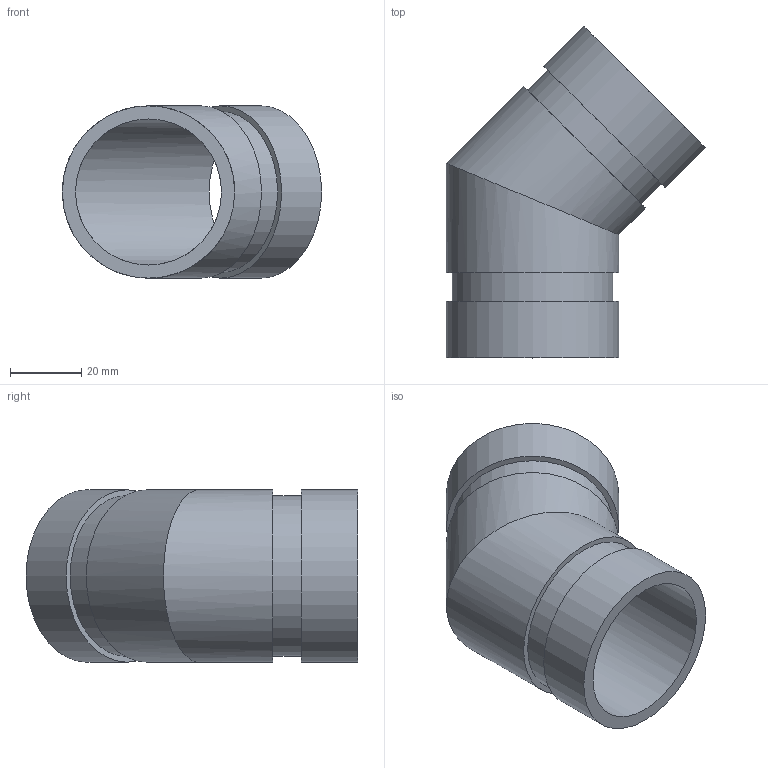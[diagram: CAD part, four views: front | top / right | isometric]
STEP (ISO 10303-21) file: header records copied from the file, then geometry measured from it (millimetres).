
FILE_DESCRIPTION(/* description */ ('VIC 45 DEG FABRICATED ELBOW No 11 SWS (OGS)','CAx-IF Rec.Pracs.---Representation and Presentation of Product Manufacturing Information (PMI)---4.0---2014-10-13'),/* implementation_level */ '2;1');
FILE_NAME(/* name */ 'C:\Users\kkamble\AppData\Roaming\Autodesk\ApplicationPlugins\Back Up\Victaulic_IPS_Elbow 45 Deg_No 11 SWS (OGS)\Victaulic_IPS_Elbow 45 Deg_No 11 SWS (OGS)_1.5 (40).stp',/* time_stamp */ '2020-09-16T22:14:16+06:00',/* author */ ('cgray'),/* organization */ ('Victaulic'),/* preprocessor_version */ 'ST-DEVELOPER v17.2',/* originating_system */ 'Autodesk Inventor 2019',/* authorisation */ '');
FILE_SCHEMA (('AP242_MANAGED_MODEL_BASED_3D_ENGINEERING_MIM_LF { 1 0 10303 442 1 1 4 }'));
Length unit declared in the file: inch
Products named in the file (1): 11 SWS-01.5
Bounding box: 72.62 x 92.94 x 48.26 mm (x, y, z)
Volume: 42151.5 mm3; surface area: 26703.6 mm2
Topology: 1 solids, 1 shells, 14 faces, 30 edges, 22 vertices
Faces by surface type: cylinder 8, plane 6
Full cylindrical faces by diameter (mm): 40.894 x2, 45.085 x2, 48.26 x4
Entity records: 554 total; most frequent: DIRECTION 108, CARTESIAN_POINT 84, ORIENTED_EDGE 60, AXIS2_PLACEMENT_3D 50, EDGE_CURVE 30, VERTEX_POINT 22, EDGE_LOOP 20, CIRCLE 16
